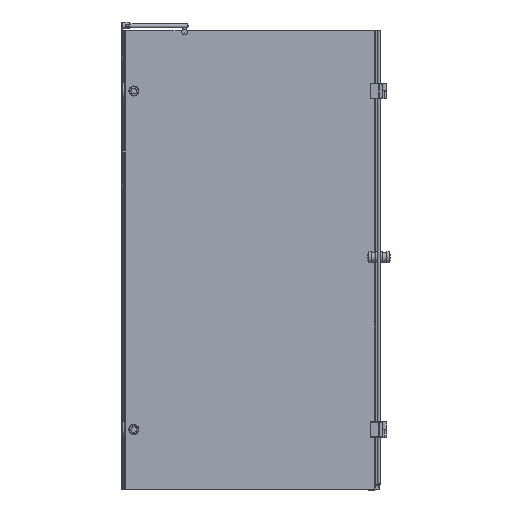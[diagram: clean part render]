
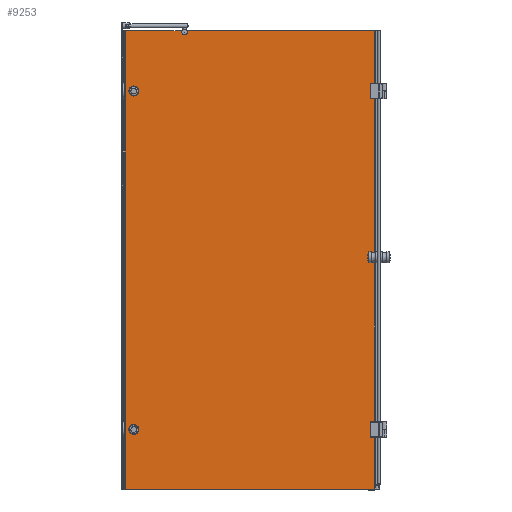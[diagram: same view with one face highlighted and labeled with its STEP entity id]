
A CAD part, left-side view. The second image highlights one B-rep face of the part: STEP entity #9253.
In plain terms, the highlighted planar face has unit normal (-1, 0, 0).
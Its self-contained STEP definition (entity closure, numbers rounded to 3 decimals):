
#463=LINE($,#14174,#1273);
#497=LINE($,#14311,#1307);
#633=LINE($,#14901,#1443);
#679=LINE($,#15040,#1489);
#683=LINE($,#15046,#1493);
#692=LINE($,#15065,#1502);
#695=LINE($,#15081,#1505);
#717=LINE($,#15150,#1527);
#718=LINE($,#15152,#1528);
#727=LINE($,#15231,#1537);
#728=LINE($,#15244,#1538);
#729=LINE($,#15246,#1539);
#1273=VECTOR($,#11249,652.066);
#1307=VECTOR($,#11355,3.387);
#1443=VECTOR($,#11831,2.);
#1489=VECTOR($,#11977,1600.);
#1493=VECTOR($,#11983,5.6);
#1502=VECTOR($,#12004,867.4);
#1505=VECTOR($,#12017,1.213);
#1527=VECTOR($,#12093,1598.);
#1528=VECTOR($,#12096,1598.);
#1537=VECTOR($,#12129,12.192);
#1538=VECTOR($,#12132,1584.733);
#1539=VECTOR($,#12135,198.474);
#1840=FACE_BOUND($,#2931,.T.);
#1841=FACE_BOUND($,#2932,.T.);
#2380=FACE_OUTER_BOUND($,#2930,.T.);
#2930=EDGE_LOOP($,(#7349,#7350,#7351,#7352,#7353,#7354,#7355,#7356,#7357,
#7358,#7359,#7360,#7361,#7362,#7363,#7364));
#2931=EDGE_LOOP($,(#7365));
#2932=EDGE_LOOP($,(#7366));
#3221=CIRCLE($,#9699,10.);
#3302=CIRCLE($,#9826,15.);
#3334=CIRCLE($,#9894,15.);
#3398=CIRCLE($,#10035,16.);
#3399=CIRCLE($,#10036,0.5);
#3400=CIRCLE($,#10037,16.);
#3795=VERTEX_POINT($,#13916);
#3796=VERTEX_POINT($,#13917);
#3839=VERTEX_POINT($,#14173);
#3905=VERTEX_POINT($,#14309);
#3906=VERTEX_POINT($,#14310);
#3975=VERTEX_POINT($,#14561);
#4046=VERTEX_POINT($,#14829);
#4069=VERTEX_POINT($,#14898);
#4070=VERTEX_POINT($,#14900);
#4112=VERTEX_POINT($,#15038);
#4113=VERTEX_POINT($,#15039);
#4114=VERTEX_POINT($,#15044);
#4125=VERTEX_POINT($,#15078);
#4126=VERTEX_POINT($,#15080);
#4156=VERTEX_POINT($,#15220);
#4157=VERTEX_POINT($,#15233);
#4158=VERTEX_POINT($,#15247);
#4159=VERTEX_POINT($,#15249);
#4803=EDGE_CURVE($,#3795,#3796,#3221,.T.);
#4854=EDGE_CURVE($,#3839,#3795,#463,.T.);
#4924=EDGE_CURVE($,#3905,#3906,#497,.T.);
#5016=EDGE_CURVE($,#3975,#3975,#3302,.T.);
#5119=EDGE_CURVE($,#4046,#4046,#3334,.T.);
#5146=EDGE_CURVE($,#4069,#4070,#633,.T.);
#5217=EDGE_CURVE($,#4112,#4113,#679,.T.);
#5221=EDGE_CURVE($,#4070,#4114,#683,.T.);
#5230=EDGE_CURVE($,#4114,#4113,#692,.T.);
#5237=EDGE_CURVE($,#4126,#4125,#695,.T.);
#5274=EDGE_CURVE($,#3839,#4125,#717,.T.);
#5275=EDGE_CURVE($,#3906,#4126,#718,.T.);
#5293=EDGE_CURVE($,#4156,#4069,#727,.T.);
#5295=EDGE_CURVE($,#3905,#4157,#728,.T.);
#5296=EDGE_CURVE($,#3796,#4112,#729,.T.);
#5297=EDGE_CURVE($,#4156,#4158,#3398,.T.);
#5298=EDGE_CURVE($,#4158,#4159,#3399,.T.);
#5299=EDGE_CURVE($,#4159,#4157,#3400,.T.);
#7349=ORIENTED_EDGE($,*,*,#4803,.T.);
#7350=ORIENTED_EDGE($,*,*,#5296,.T.);
#7351=ORIENTED_EDGE($,*,*,#5217,.T.);
#7352=ORIENTED_EDGE($,*,*,#5230,.F.);
#7353=ORIENTED_EDGE($,*,*,#5221,.F.);
#7354=ORIENTED_EDGE($,*,*,#5146,.F.);
#7355=ORIENTED_EDGE($,*,*,#5293,.F.);
#7356=ORIENTED_EDGE($,*,*,#5297,.T.);
#7357=ORIENTED_EDGE($,*,*,#5298,.T.);
#7358=ORIENTED_EDGE($,*,*,#5299,.T.);
#7359=ORIENTED_EDGE($,*,*,#5295,.F.);
#7360=ORIENTED_EDGE($,*,*,#4924,.T.);
#7361=ORIENTED_EDGE($,*,*,#5275,.T.);
#7362=ORIENTED_EDGE($,*,*,#5237,.T.);
#7363=ORIENTED_EDGE($,*,*,#5274,.F.);
#7364=ORIENTED_EDGE($,*,*,#4854,.T.);
#7365=ORIENTED_EDGE($,*,*,#5016,.T.);
#7366=ORIENTED_EDGE($,*,*,#5119,.T.);
#8350=PLANE($,#10034);
#9253=ADVANCED_FACE($,(#2380,#1840,#1841),#8350,.T.);
#9699=AXIS2_PLACEMENT_3D($,#13918,#11166,#11167);
#9826=AXIS2_PLACEMENT_3D($,#14562,#11542,#11543);
#9894=AXIS2_PLACEMENT_3D($,#14830,#11747,#11748);
#10034=AXIS2_PLACEMENT_3D($,#15245,#12133,#12134);
#10035=AXIS2_PLACEMENT_3D($,#15248,#12136,#12137);
#10036=AXIS2_PLACEMENT_3D($,#15250,#12138,#12139);
#10037=AXIS2_PLACEMENT_3D($,#15251,#12140,#12141);
#11166=DIRECTION('center_axis',(1.,0.,0.));
#11167=DIRECTION('ref_axis',(0.,0.597,0.802));
#11249=DIRECTION($,(0.,1.,0.));
#11355=DIRECTION($,(0.,1.,0.));
#11542=DIRECTION('center_axis',(1.,0.,0.));
#11543=DIRECTION('ref_axis',(0.,-1.,0.));
#11747=DIRECTION('center_axis',(1.,0.,0.));
#11748=DIRECTION('ref_axis',(0.,-1.,0.));
#11831=DIRECTION($,(0.,0.,-1.));
#11977=DIRECTION($,(0.,0.,-1.));
#11983=DIRECTION($,(0.,1.,0.));
#12004=DIRECTION($,(0.,1.,0.));
#12017=DIRECTION($,(0.,1.,0.));
#12093=DIRECTION($,(0.,0.,-1.));
#12096=DIRECTION($,(0.,0.,-1.));
#12129=DIRECTION($,(0.,0.,-1.));
#12132=DIRECTION($,(0.,0.,-1.));
#12133=DIRECTION('center_axis',(-1.,0.,0.));
#12134=DIRECTION('ref_axis',(0.,1.,0.));
#12135=DIRECTION($,(0.,1.,0.));
#12136=DIRECTION('center_axis',(1.,0.,0.));
#12137=DIRECTION('ref_axis',(0.,-0.71,-0.704));
#12138=DIRECTION('center_axis',(1.,0.,0.));
#12139=DIRECTION('ref_axis',(0.,-0.169,-0.986));
#12140=DIRECTION('center_axis',(-1.,0.,0.));
#12141=DIRECTION('ref_axis',(0.,0.747,0.665));
#13916=CARTESIAN_POINT('',(1225.733,1117.622,1625.944));
#13917=CARTESIAN_POINT('',(1225.733,1135.482,1625.944));
#13918=CARTESIAN_POINT('Origin',(1225.733,1126.552,1621.444));
#14173=CARTESIAN_POINT('',(1225.733,465.556,1625.944));
#14174=CARTESIAN_POINT($,(1225.733,460.956,1625.944));
#14309=CARTESIAN_POINT('',(1225.733,460.956,1625.944));
#14310=CARTESIAN_POINT('',(1225.733,464.343,1625.944));
#14311=CARTESIAN_POINT($,(1225.733,460.956,1625.944));
#14561=CARTESIAN_POINT('',(1225.733,1318.956,1415.944));
#14562=CARTESIAN_POINT('Origin',(1225.733,1303.956,1415.944));
#14829=CARTESIAN_POINT('',(1225.733,1318.956,235.944));
#14830=CARTESIAN_POINT('Origin',(1225.733,1303.956,235.944));
#14898=CARTESIAN_POINT('',(1225.733,460.956,27.944));
#14900=CARTESIAN_POINT('',(1225.733,460.956,25.944));
#14901=CARTESIAN_POINT($,(1225.733,460.956,1625.944));
#15038=CARTESIAN_POINT('',(1225.733,1333.956,1625.944));
#15039=CARTESIAN_POINT('',(1225.733,1333.956,25.944));
#15040=CARTESIAN_POINT($,(1225.733,1333.956,825.944));
#15044=CARTESIAN_POINT('',(1225.733,466.556,25.944));
#15046=CARTESIAN_POINT($,(1225.733,460.956,25.944));
#15065=CARTESIAN_POINT($,(1225.733,460.956,25.944));
#15078=CARTESIAN_POINT('',(1225.733,465.556,27.944));
#15080=CARTESIAN_POINT('',(1225.733,464.343,27.944));
#15081=CARTESIAN_POINT($,(1225.733,461.548,27.944));
#15150=CARTESIAN_POINT($,(1225.733,465.556,1625.944));
#15152=CARTESIAN_POINT($,(1225.733,464.343,1625.944));
#15220=CARTESIAN_POINT('',(1225.733,460.956,40.137));
#15231=CARTESIAN_POINT($,(1225.733,460.956,1625.944));
#15233=CARTESIAN_POINT('',(1225.733,460.956,41.211));
#15244=CARTESIAN_POINT($,(1225.733,460.956,1625.944));
#15245=CARTESIAN_POINT('Origin',(1225.733,460.956,1625.944));
#15246=CARTESIAN_POINT($,(1225.733,460.956,1625.944));
#15247=CARTESIAN_POINT('',(1225.733,461.871,39.952));
#15248=CARTESIAN_POINT('Origin',(1225.733,464.581,55.72));
#15249=CARTESIAN_POINT('',(1225.733,462.061,40.933));
#15250=CARTESIAN_POINT('Origin',(1225.733,461.956,40.444));
#15251=CARTESIAN_POINT('Origin',(1225.733,465.411,56.579));
